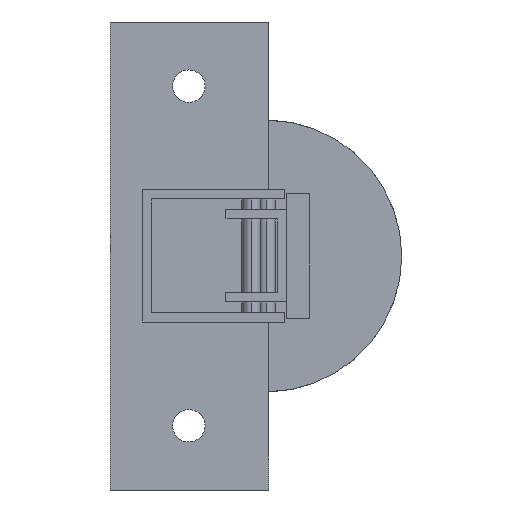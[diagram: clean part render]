
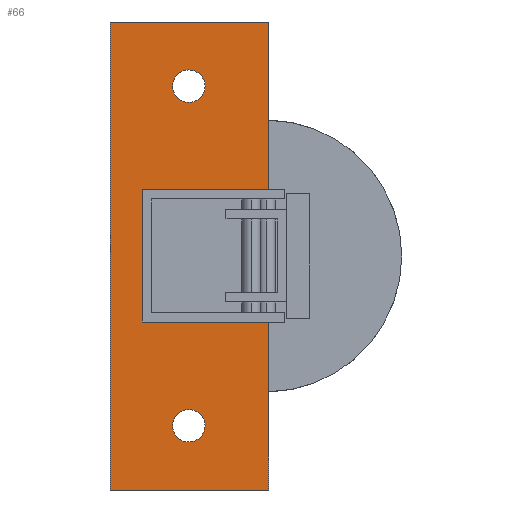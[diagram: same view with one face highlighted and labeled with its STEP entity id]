
A CAD part, left-side view. The second image highlights one B-rep face of the part: STEP entity #66.
In plain terms, the highlighted planar face has unit normal (-1, 0, 0).
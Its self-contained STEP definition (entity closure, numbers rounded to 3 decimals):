
#66 = ADVANCED_FACE ( 'NONE', ( #1899, #1889, #1892 ), #1433, .F. ) ;
#137 = CARTESIAN_POINT ( 'NONE',  ( 76.27, 12.66, -13.75 ) ) ;
#138 = DIRECTION ( 'NONE',  ( -1., 0., 0. ) ) ;
#139 = DIRECTION ( 'NONE',  ( 0., 0., 1. ) ) ;
#212 = CARTESIAN_POINT ( 'NONE',  ( 76.27, 12.66, 31.25 ) ) ;
#213 = DIRECTION ( 'NONE',  ( -1., 0., 0. ) ) ;
#214 = DIRECTION ( 'NONE',  ( 0., 0., 1. ) ) ;
#261 = CARTESIAN_POINT ( 'NONE',  ( 76.27, 18.84, 17.5 ) ) ;
#263 = CARTESIAN_POINT ( 'NONE',  ( 76.27, 2.05, 17.5 ) ) ;
#265 = CARTESIAN_POINT ( 'NONE',  ( 76.27, 2.05, 39.75 ) ) ;
#270 = CARTESIAN_POINT ( 'NONE',  ( 76.27, 18.84, 0. ) ) ;
#276 = CARTESIAN_POINT ( 'NONE',  ( 76.27, 23.06, -22.26 ) ) ;
#277 = CARTESIAN_POINT ( 'NONE',  ( 76.27, 23.06, 39.75 ) ) ;
#281 = CARTESIAN_POINT ( 'NONE',  ( 76.27, 2.05, 0. ) ) ;
#282 = CARTESIAN_POINT ( 'NONE',  ( 76.27, 2.05, -22.26 ) ) ;
#319 = CARTESIAN_POINT ( 'NONE',  ( 76.27, 12.66, -11.6 ) ) ;
#320 = CARTESIAN_POINT ( 'NONE',  ( 76.27, 12.66, -15.9 ) ) ;
#323 = CARTESIAN_POINT ( 'NONE',  ( 76.27, 12.66, 33.4 ) ) ;
#324 = CARTESIAN_POINT ( 'NONE',  ( 76.27, 12.66, 29.1 ) ) ;
#468 = AXIS2_PLACEMENT_3D ( 'NONE', #1435, #1442, #1430 ) ;
#504 = AXIS2_PLACEMENT_3D ( 'NONE', #1286, #1285, #1284 ) ;
#505 = AXIS2_PLACEMENT_3D ( 'NONE', #1281, #1280, #1279 ) ;
#522 = AXIS2_PLACEMENT_3D ( 'NONE', #137, #138, #139 ) ;
#538 = AXIS2_PLACEMENT_3D ( 'NONE', #212, #213, #214 ) ;
#692 = ORIENTED_EDGE ( 'NONE', *, *, #1015, .F. ) ;
#694 = ORIENTED_EDGE ( 'NONE', *, *, #875, .F. ) ;
#695 = ORIENTED_EDGE ( 'NONE', *, *, #882, .F. ) ;
#706 = ORIENTED_EDGE ( 'NONE', *, *, #872, .F. ) ;
#707 = ORIENTED_EDGE ( 'NONE', *, *, #871, .F. ) ;
#708 = ORIENTED_EDGE ( 'NONE', *, *, #985, .F. ) ;
#756 = ORIENTED_EDGE ( 'NONE', *, *, #877, .F. ) ;
#757 = ORIENTED_EDGE ( 'NONE', *, *, #879, .F. ) ;
#758 = ORIENTED_EDGE ( 'NONE', *, *, #880, .F. ) ;
#759 = ORIENTED_EDGE ( 'NONE', *, *, #896, .T. ) ;
#760 = ORIENTED_EDGE ( 'NONE', *, *, #895, .F. ) ;
#761 = ORIENTED_EDGE ( 'NONE', *, *, #885, .F. ) ;
#871 = EDGE_CURVE ( 'NONE', #2329, #2330, #1786, .T. ) ;
#872 = EDGE_CURVE ( 'NONE', #2333, #2334, #1781, .T. ) ;
#875 = EDGE_CURVE ( 'NONE', #2257, #2249, #1778, .T. ) ;
#877 = EDGE_CURVE ( 'NONE', #2249, #2250, #1772, .T. ) ;
#879 = EDGE_CURVE ( 'NONE', #2250, #2248, #1775, .T. ) ;
#880 = EDGE_CURVE ( 'NONE', #2248, #2245, #1769, .T. ) ;
#882 = EDGE_CURVE ( 'NONE', #2256, #2257, #1767, .T. ) ;
#885 = EDGE_CURVE ( 'NONE', #2237, #2256, #1759, .T. ) ;
#895 = EDGE_CURVE ( 'NONE', #2219, #2237, #1739, .T. ) ;
#896 = EDGE_CURVE ( 'NONE', #2219, #2245, #1718, .T. ) ;
#985 = EDGE_CURVE ( 'NONE', #2330, #2329, #1113, .T. ) ;
#1015 = EDGE_CURVE ( 'NONE', #2334, #2333, #1061, .T. ) ;
#1061 = CIRCLE ( 'NONE', #538, 2.15 ) ;
#1113 = CIRCLE ( 'NONE', #522, 2.15 ) ;
#1255 = DIRECTION ( 'NONE',  ( 0., -1., 0. ) ) ;
#1256 = CARTESIAN_POINT ( 'NONE',  ( 76.27, 0., 0. ) ) ;
#1261 = DIRECTION ( 'NONE',  ( 0., 0., -1. ) ) ;
#1264 = DIRECTION ( 'NONE',  ( 0., 0., -1. ) ) ;
#1266 = CARTESIAN_POINT ( 'NONE',  ( 76.27, 2.05, 0. ) ) ;
#1267 = DIRECTION ( 'NONE',  ( 0., -1., 0. ) ) ;
#1269 = CARTESIAN_POINT ( 'NONE',  ( 76.27, 2.05, 0. ) ) ;
#1271 = DIRECTION ( 'NONE',  ( 0., 0., 1. ) ) ;
#1275 = DIRECTION ( 'NONE',  ( 0., 1., 0. ) ) ;
#1276 = CARTESIAN_POINT ( 'NONE',  ( 76.27, 0., -22.26 ) ) ;
#1278 = CARTESIAN_POINT ( 'NONE',  ( 76.27, 0., 39.75 ) ) ;
#1279 = DIRECTION ( 'NONE',  ( 0., 0., 1. ) ) ;
#1280 = DIRECTION ( 'NONE',  ( -1., 0., 0. ) ) ;
#1281 = CARTESIAN_POINT ( 'NONE',  ( 76.27, 12.66, 31.25 ) ) ;
#1284 = DIRECTION ( 'NONE',  ( 0., 0., 1. ) ) ;
#1285 = DIRECTION ( 'NONE',  ( -1., 0., 0. ) ) ;
#1286 = CARTESIAN_POINT ( 'NONE',  ( 76.27, 12.66, -13.75 ) ) ;
#1289 = CARTESIAN_POINT ( 'NONE',  ( 76.27, 23.06, 0. ) ) ;
#1368 = DIRECTION ( 'NONE',  ( 0., -1., 0. ) ) ;
#1370 = CARTESIAN_POINT ( 'NONE',  ( 76.27, 0., 17.5 ) ) ;
#1371 = DIRECTION ( 'NONE',  ( 0., 0., -1. ) ) ;
#1372 = CARTESIAN_POINT ( 'NONE',  ( 76.27, 18.84, 0. ) ) ;
#1430 = DIRECTION ( 'NONE',  ( 0., 0., -1. ) ) ;
#1433 = PLANE ( 'NONE',  #468 ) ;
#1435 = CARTESIAN_POINT ( 'NONE',  ( 76.27, 0., 0. ) ) ;
#1442 = DIRECTION ( 'NONE',  ( 1., 0., 0. ) ) ;
#1717 = VECTOR ( 'NONE', #1368, 1000. ) ;
#1718 = LINE ( 'NONE', #1370, #1717 ) ;
#1719 = VECTOR ( 'NONE', #1371, 1000. ) ;
#1739 = LINE ( 'NONE', #1372, #1719 ) ;
#1748 = VECTOR ( 'NONE', #1255, 1000. ) ;
#1754 = VECTOR ( 'NONE', #1261, 1000. ) ;
#1758 = VECTOR ( 'NONE', #1264, 1000. ) ;
#1759 = LINE ( 'NONE', #1256, #1748 ) ;
#1760 = VECTOR ( 'NONE', #1267, 1000. ) ;
#1764 = VECTOR ( 'NONE', #1271, 1000. ) ;
#1767 = LINE ( 'NONE', #1269, #1754 ) ;
#1768 = VECTOR ( 'NONE', #1275, 1000. ) ;
#1769 = LINE ( 'NONE', #1266, #1758 ) ;
#1772 = LINE ( 'NONE', #1289, #1764 ) ;
#1775 = LINE ( 'NONE', #1278, #1760 ) ;
#1778 = LINE ( 'NONE', #1276, #1768 ) ;
#1781 = CIRCLE ( 'NONE', #505, 2.15 ) ;
#1786 = CIRCLE ( 'NONE', #504, 2.15 ) ;
#1889 = FACE_BOUND ( 'NONE', #2114, .T. ) ;
#1892 = FACE_BOUND ( 'NONE', #2143, .T. ) ;
#1899 = FACE_OUTER_BOUND ( 'NONE', #2121, .T. ) ;
#2114 = EDGE_LOOP ( 'NONE', ( #706, #692 ) ) ;
#2121 = EDGE_LOOP ( 'NONE', ( #761, #760, #759, #758, #757, #756, #694, #695 ) ) ;
#2143 = EDGE_LOOP ( 'NONE', ( #707, #708 ) ) ;
#2219 = VERTEX_POINT ( 'NONE', #261 ) ;
#2237 = VERTEX_POINT ( 'NONE', #270 ) ;
#2245 = VERTEX_POINT ( 'NONE', #263 ) ;
#2248 = VERTEX_POINT ( 'NONE', #265 ) ;
#2249 = VERTEX_POINT ( 'NONE', #276 ) ;
#2250 = VERTEX_POINT ( 'NONE', #277 ) ;
#2256 = VERTEX_POINT ( 'NONE', #281 ) ;
#2257 = VERTEX_POINT ( 'NONE', #282 ) ;
#2329 = VERTEX_POINT ( 'NONE', #319 ) ;
#2330 = VERTEX_POINT ( 'NONE', #320 ) ;
#2333 = VERTEX_POINT ( 'NONE', #323 ) ;
#2334 = VERTEX_POINT ( 'NONE', #324 ) ;
